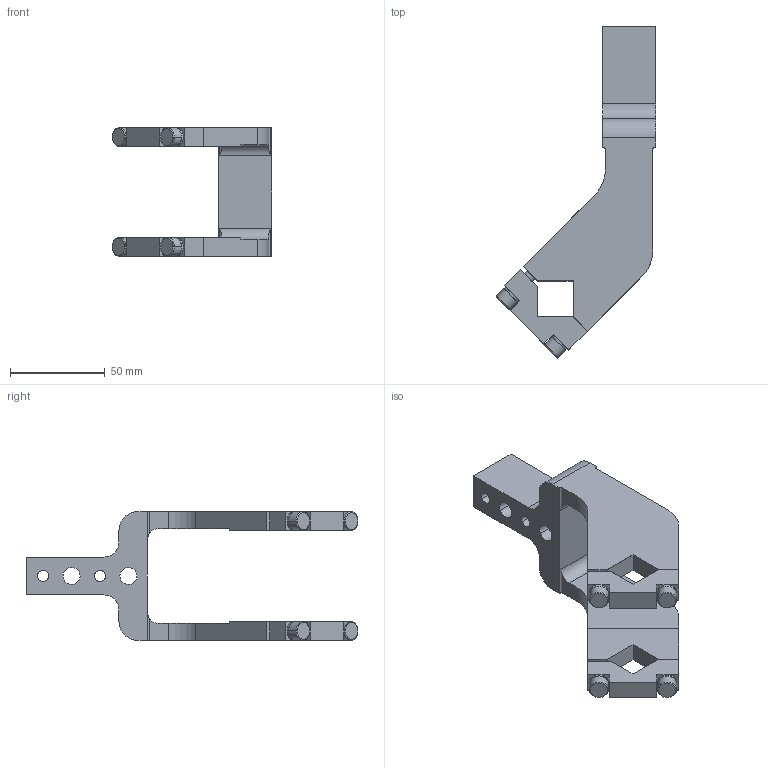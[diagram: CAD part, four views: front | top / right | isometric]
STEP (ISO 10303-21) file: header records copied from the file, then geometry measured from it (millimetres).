
FILE_DESCRIPTION(('CATIA V5 STEP Exchange'),'2;1');
FILE_NAME('E:\clampact\CLAMPACT\clampact\catalog\Clampact Arm\Arm 3D\Clampact Arm\arm_K50_25_A80_Clampact.stp','2022-12-06T07:58:49+00:00',('none'),('none'),'CATIA Version 5 Release 19 SP 6 (IN-10)','CATIA V5 STEP AP203','none');
FILE_SCHEMA(('CONFIG_CONTROL_DESIGN'));
Length unit declared in the file: millimetre
Products named in the file (1): K50_25_A80_Clampact_柯莱普
Bounding box: 84.05 x 175.05 x 68 mm (x, y, z)
Volume: 130576.7 mm3; surface area: 38459.9 mm2
Topology: 1 solids, 5 shells, 168 faces, 436 edges, 278 vertices
Faces by surface type: plane 82, cylinder 54, cone 20, torus 12
Entity records: 4948 total; most frequent: CARTESIAN_POINT 1089, ORIENTED_EDGE 856, DIRECTION 634, EDGE_CURVE 428, VERTEX_POINT 278, VECTOR 264, LINE 264, AXIS2_PLACEMENT_3D 251
